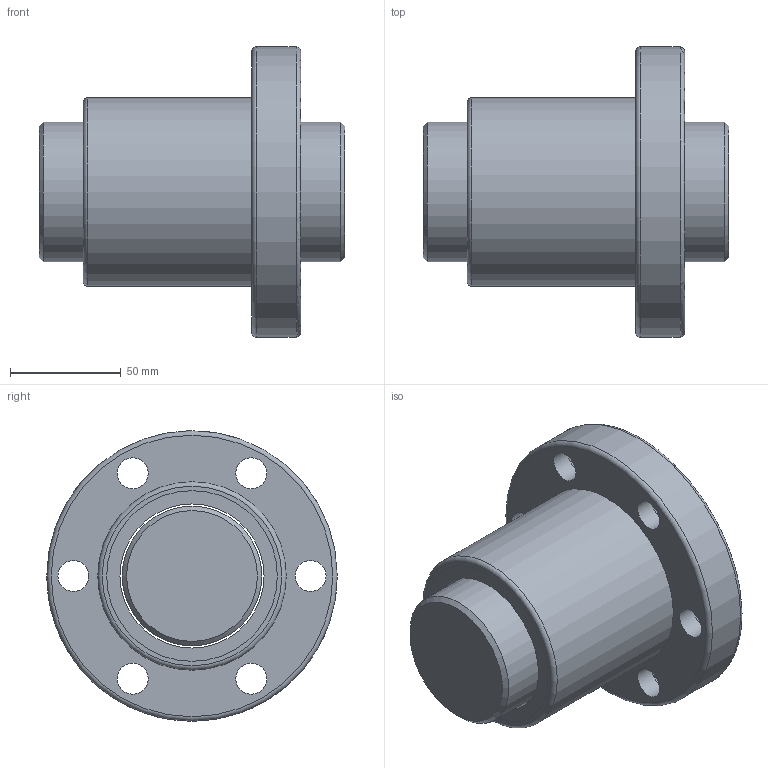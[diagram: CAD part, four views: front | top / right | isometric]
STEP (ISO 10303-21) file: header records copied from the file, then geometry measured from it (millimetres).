
FILE_DESCRIPTION(/* description */ (''),/* implementation_level */ '2;1');
FILE_NAME(/* name */ 'SFI6310',/* time_stamp */ '2007-10-26T11:45:35+08:00',/* author */ (''),/* organization */ (''),/* preprocessor_version */ 'ST-DEVELOPER v9',/* originating_system */ 'EDS PLM SOLUTIONS - UNIGRAPHICS NX 1.0',/* authorisation */ '');
FILE_SCHEMA (('CONFIG_CONTROL_DESIGN'));
Length unit declared in the file: millimetre
Products named in the file (1): FANNDA0400ff
Bounding box: 138 x 131 x 131 mm (x, y, z)
Volume: 798248.1 mm3; surface area: 120335.6 mm2
Topology: 4 solids, 4 shells, 44 faces, 86 edges, 57 vertices
Faces by surface type: cylinder 22, plane 17, torus 3, cone 2
Full cylindrical faces by diameter (mm): 14 x6, 20 x6, 63 x1, 65 x3, 77 x4, 85 x1, 131 x1
Entity records: 1052 total; most frequent: DIRECTION 190, CARTESIAN_POINT 143, ORIENTED_EDGE 100, EDGE_LOOP 96, AXIS2_PLACEMENT_3D 95, FACE_BOUND 77, EDGE_CURVE 50, CIRCLE 50
